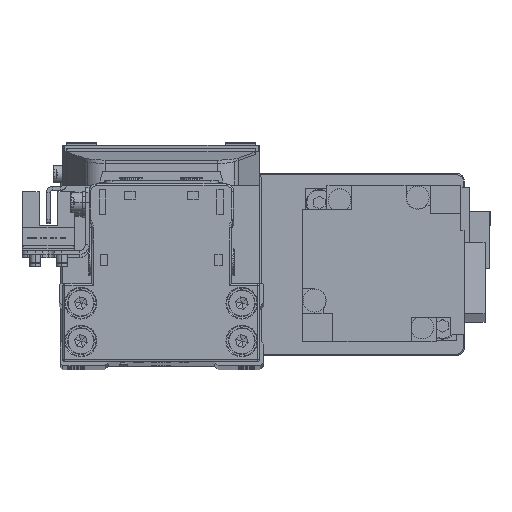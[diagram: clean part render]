
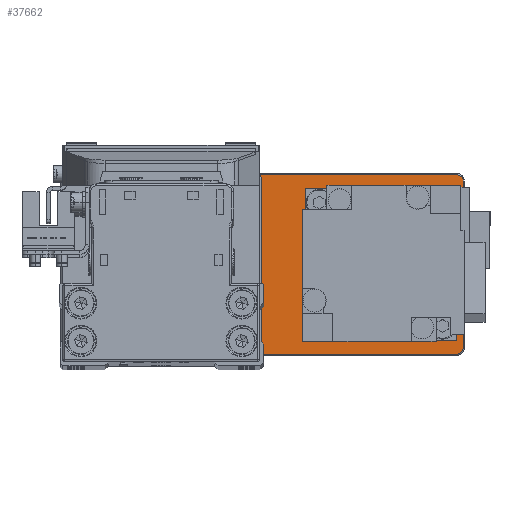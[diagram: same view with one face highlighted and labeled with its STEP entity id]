
A CAD part, top view. The second image highlights one B-rep face of the part: STEP entity #37662.
In plain terms, the highlighted planar face has unit normal (0, 0, 1).
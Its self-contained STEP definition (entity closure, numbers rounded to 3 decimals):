
#1617 = VERTEX_POINT ( 'NONE', #20917 ) ;
#1666 = LINE ( 'NONE', #14076, #24143 ) ;
#1918 = EDGE_CURVE ( 'NONE', #1617, #16164, #19855, .T. ) ;
#2107 = AXIS2_PLACEMENT_3D ( 'NONE', #4142, #16574, #28965 ) ;
#2317 = CIRCLE ( 'NONE', #25057, 1.7 ) ;
#2339 = DIRECTION ( 'NONE',  ( 1., 0., 0. ) ) ;
#2838 = DIRECTION ( 'NONE',  ( 1., 0., 0. ) ) ;
#3634 = EDGE_LOOP ( 'NONE', ( #15648, #36003 ) ) ;
#3677 = VERTEX_POINT ( 'NONE', #32515 ) ;
#3773 = CARTESIAN_POINT ( 'NONE',  ( -51.7, -22., 5. ) ) ;
#4070 = DIRECTION ( 'NONE',  ( -1., 0., 0. ) ) ;
#4142 = CARTESIAN_POINT ( 'NONE',  ( -28., 0., 5. ) ) ;
#4387 = DIRECTION ( 'NONE',  ( 1., 0., 0. ) ) ;
#4526 = EDGE_CURVE ( 'NONE', #38309, #3677, #27075, .T. ) ;
#5356 = EDGE_LOOP ( 'NONE', ( #12188, #38844, #39657, #27947, #8163, #25455, #19651, #22806 ) ) ;
#6029 = AXIS2_PLACEMENT_3D ( 'NONE', #26485, #38877, #11035 ) ;
#6347 = DIRECTION ( 'NONE',  ( 1., 0., 0. ) ) ;
#6868 = CIRCLE ( 'NONE', #29613, 1.7 ) ;
#6981 = CARTESIAN_POINT ( 'NONE',  ( -50., 22., 5. ) ) ;
#7693 = CARTESIAN_POINT ( 'NONE',  ( 51.7, -22., 5. ) ) ;
#7772 = DIRECTION ( 'NONE',  ( 1., 0., 0. ) ) ;
#8163 = ORIENTED_EDGE ( 'NONE', *, *, #8435, .T. ) ;
#8283 = CARTESIAN_POINT ( 'NONE',  ( 30., 0., 5. ) ) ;
#8307 = VECTOR ( 'NONE', #39324, 1000. ) ;
#8435 = EDGE_CURVE ( 'NONE', #36331, #16441, #19545, .T. ) ;
#9394 = PLANE ( 'NONE',  #21305 ) ;
#11035 = DIRECTION ( 'NONE',  ( 1., 0., 0. ) ) ;
#11206 = CARTESIAN_POINT ( 'NONE',  ( 42.8, 0., 5. ) ) ;
#11367 = CARTESIAN_POINT ( 'NONE',  ( -17.7, 0., 5. ) ) ;
#11632 = VERTEX_POINT ( 'NONE', #7693 ) ;
#11668 = EDGE_CURVE ( 'NONE', #12978, #29968, #15629, .T. ) ;
#11774 = CARTESIAN_POINT ( 'NONE',  ( -50., -22., 5. ) ) ;
#11852 = CIRCLE ( 'NONE', #34560, 1.7 ) ;
#12188 = ORIENTED_EDGE ( 'NONE', *, *, #1918, .T. ) ;
#12263 = CARTESIAN_POINT ( 'NONE',  ( 50., 23.7, 5. ) ) ;
#12475 = FACE_BOUND ( 'NONE', #22059, .T. ) ;
#12978 = VERTEX_POINT ( 'NONE', #11206 ) ;
#14076 = CARTESIAN_POINT ( 'NONE',  ( 51.7, 22., 5. ) ) ;
#14535 = LINE ( 'NONE', #26925, #8307 ) ;
#15271 = EDGE_CURVE ( 'NONE', #16164, #11632, #2317, .T. ) ;
#15629 = CIRCLE ( 'NONE', #38346, 12.8 ) ;
#15648 = ORIENTED_EDGE ( 'NONE', *, *, #4526, .T. ) ;
#15972 = VECTOR ( 'NONE', #4070, 1000. ) ;
#16164 = VERTEX_POINT ( 'NONE', #32330 ) ;
#16441 = VERTEX_POINT ( 'NONE', #30860 ) ;
#16574 = DIRECTION ( 'NONE',  ( 0., 0., -1. ) ) ;
#17271 = EDGE_CURVE ( 'NONE', #17815, #21047, #14535, .T. ) ;
#17815 = VERTEX_POINT ( 'NONE', #37369 ) ;
#17827 = CARTESIAN_POINT ( 'NONE',  ( 50., -22., 5. ) ) ;
#18325 = CARTESIAN_POINT ( 'NONE',  ( 50., 22., 5. ) ) ;
#19390 = DIRECTION ( 'NONE',  ( 0., 0., 1. ) ) ;
#19545 = LINE ( 'NONE', #31946, #15972 ) ;
#19639 = CIRCLE ( 'NONE', #2107, 10.3 ) ;
#19651 = ORIENTED_EDGE ( 'NONE', *, *, #17271, .T. ) ;
#19680 = VERTEX_POINT ( 'NONE', #34483 ) ;
#19855 = LINE ( 'NONE', #32258, #37766 ) ;
#20703 = DIRECTION ( 'NONE',  ( 0., 0., -1. ) ) ;
#20917 = CARTESIAN_POINT ( 'NONE',  ( -50., -23.7, 5. ) ) ;
#21047 = VERTEX_POINT ( 'NONE', #3773 ) ;
#21305 = AXIS2_PLACEMENT_3D ( 'NONE', #21793, #34199, #6347 ) ;
#21793 = CARTESIAN_POINT ( 'NONE',  ( 0., 0., 5. ) ) ;
#22059 = EDGE_LOOP ( 'NONE', ( #30226, #29869 ) ) ;
#22806 = ORIENTED_EDGE ( 'NONE', *, *, #28600, .T. ) ;
#23224 = CARTESIAN_POINT ( 'NONE',  ( -28., 0., 5. ) ) ;
#23507 = CIRCLE ( 'NONE', #28680, 1.7 ) ;
#23579 = CIRCLE ( 'NONE', #6029, 12.8 ) ;
#24143 = VECTOR ( 'NONE', #26486, 1000. ) ;
#24168 = DIRECTION ( 'NONE',  ( 0., 0., 1. ) ) ;
#24520 = EDGE_CURVE ( 'NONE', #11632, #19680, #1666, .T. ) ;
#24701 = EDGE_CURVE ( 'NONE', #19680, #36331, #23507, .T. ) ;
#24870 = FACE_BOUND ( 'NONE', #3634, .T. ) ;
#25057 = AXIS2_PLACEMENT_3D ( 'NONE', #17827, #30204, #2339 ) ;
#25284 = EDGE_CURVE ( 'NONE', #3677, #38309, #19639, .T. ) ;
#25455 = ORIENTED_EDGE ( 'NONE', *, *, #33950, .T. ) ;
#26485 = CARTESIAN_POINT ( 'NONE',  ( 30., 0., 5. ) ) ;
#26486 = DIRECTION ( 'NONE',  ( 0., 1., 0. ) ) ;
#26925 = CARTESIAN_POINT ( 'NONE',  ( -51.7, -22., 5. ) ) ;
#27075 = CIRCLE ( 'NONE', #32272, 10.3 ) ;
#27947 = ORIENTED_EDGE ( 'NONE', *, *, #24701, .T. ) ;
#28419 = CARTESIAN_POINT ( 'NONE',  ( 17.2, 0., 5. ) ) ;
#28600 = EDGE_CURVE ( 'NONE', #21047, #1617, #11852, .T. ) ;
#28680 = AXIS2_PLACEMENT_3D ( 'NONE', #18325, #30719, #2838 ) ;
#28965 = DIRECTION ( 'NONE',  ( 1., 0., 0. ) ) ;
#29254 = EDGE_CURVE ( 'NONE', #29968, #12978, #23579, .T. ) ;
#29613 = AXIS2_PLACEMENT_3D ( 'NONE', #6981, #19390, #31797 ) ;
#29869 = ORIENTED_EDGE ( 'NONE', *, *, #29254, .T. ) ;
#29968 = VERTEX_POINT ( 'NONE', #28419 ) ;
#30204 = DIRECTION ( 'NONE',  ( 0., 0., 1. ) ) ;
#30226 = ORIENTED_EDGE ( 'NONE', *, *, #11668, .T. ) ;
#30719 = DIRECTION ( 'NONE',  ( 0., 0., 1. ) ) ;
#30860 = CARTESIAN_POINT ( 'NONE',  ( -50., 23.7, 5. ) ) ;
#31797 = DIRECTION ( 'NONE',  ( 1., 0., 0. ) ) ;
#31946 = CARTESIAN_POINT ( 'NONE',  ( -50., 23.7, 5. ) ) ;
#32258 = CARTESIAN_POINT ( 'NONE',  ( 50., -23.7, 5. ) ) ;
#32272 = AXIS2_PLACEMENT_3D ( 'NONE', #23224, #35629, #7772 ) ;
#32330 = CARTESIAN_POINT ( 'NONE',  ( 50., -23.7, 5. ) ) ;
#32515 = CARTESIAN_POINT ( 'NONE',  ( -38.3, 0., 5. ) ) ;
#33095 = DIRECTION ( 'NONE',  ( 1., 0., 0. ) ) ;
#33950 = EDGE_CURVE ( 'NONE', #16441, #17815, #6868, .T. ) ;
#34199 = DIRECTION ( 'NONE',  ( 0., 0., 1. ) ) ;
#34483 = CARTESIAN_POINT ( 'NONE',  ( 51.7, 22., 5. ) ) ;
#34560 = AXIS2_PLACEMENT_3D ( 'NONE', #11774, #24168, #36566 ) ;
#35629 = DIRECTION ( 'NONE',  ( 0., 0., -1. ) ) ;
#36003 = ORIENTED_EDGE ( 'NONE', *, *, #25284, .T. ) ;
#36331 = VERTEX_POINT ( 'NONE', #12263 ) ;
#36566 = DIRECTION ( 'NONE',  ( 1., 0., 0. ) ) ;
#37257 = FACE_OUTER_BOUND ( 'NONE', #5356, .T. ) ;
#37369 = CARTESIAN_POINT ( 'NONE',  ( -51.7, 22., 5. ) ) ;
#37662 = ADVANCED_FACE ( 'NONE', ( #12475, #24870, #37257 ), #9394, .T. ) ;
#37766 = VECTOR ( 'NONE', #4387, 1000. ) ;
#38309 = VERTEX_POINT ( 'NONE', #11367 ) ;
#38346 = AXIS2_PLACEMENT_3D ( 'NONE', #8283, #20703, #33095 ) ;
#38844 = ORIENTED_EDGE ( 'NONE', *, *, #15271, .T. ) ;
#38877 = DIRECTION ( 'NONE',  ( 0., 0., -1. ) ) ;
#39324 = DIRECTION ( 'NONE',  ( 0., -1., 0. ) ) ;
#39657 = ORIENTED_EDGE ( 'NONE', *, *, #24520, .T. ) ;
